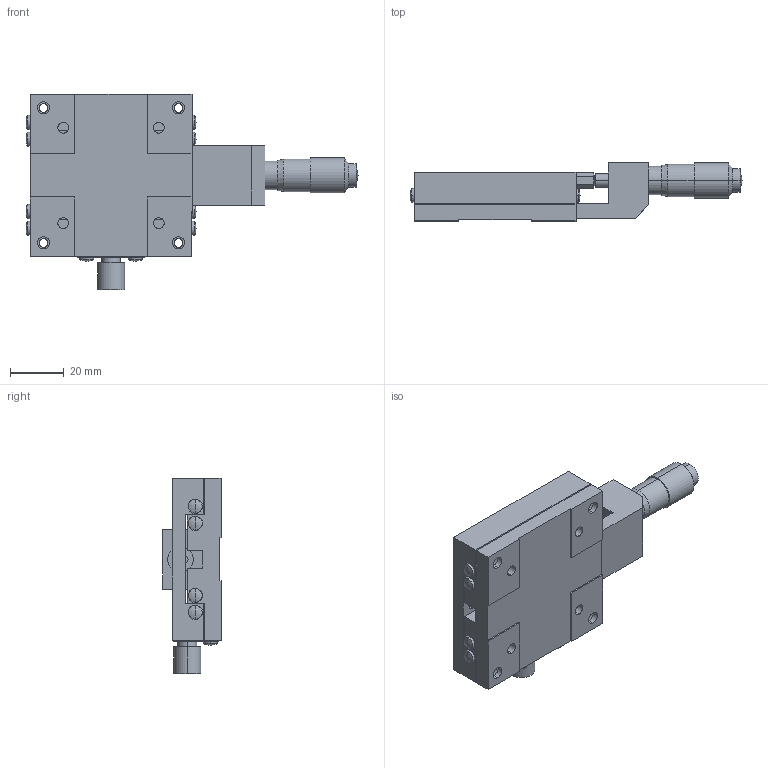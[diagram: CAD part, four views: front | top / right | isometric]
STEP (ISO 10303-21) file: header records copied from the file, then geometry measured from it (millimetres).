
FILE_DESCRIPTION (( 'STEP AP203' ), '1' );
FILE_NAME ('LS-649-C8.STEP', '2007-12-26T09:41:49', ( '' ), ( '' ), 'SwSTEP 2.0', 'SolidWorks 2007', '' );
FILE_SCHEMA (( 'CONFIG_CONTROL_DESIGN' ));
Length unit declared in the file: millimetre
Products named in the file (3): LS-649-C8-2_蹬怮椔; LS-649-C8-1_蹬怮椔; LS-649-C8
Assembly tree (2 placements, depth 2):
  LS-649-C8
    LS-649-C8-2_蹬怮椔
    LS-649-C8-1_蹬怮椔
Bounding box: 123 x 21.5 x 72.3 mm (x, y, z)
Volume: 69352.1 mm3; surface area: 29359.9 mm2
Topology: 3 solids, 3 shells, 209 faces, 516 edges, 336 vertices
Faces by surface type: plane 82, cylinder 81, cone 26, sphere 18, bspline 2
Entity records: 7009 total; most frequent: CARTESIAN_POINT 1474, DIRECTION 1160, ORIENTED_EDGE 1028, EDGE_CURVE 514, AXIS2_PLACEMENT_3D 438, VERTEX_POINT 336, VECTOR 284, LINE 284
